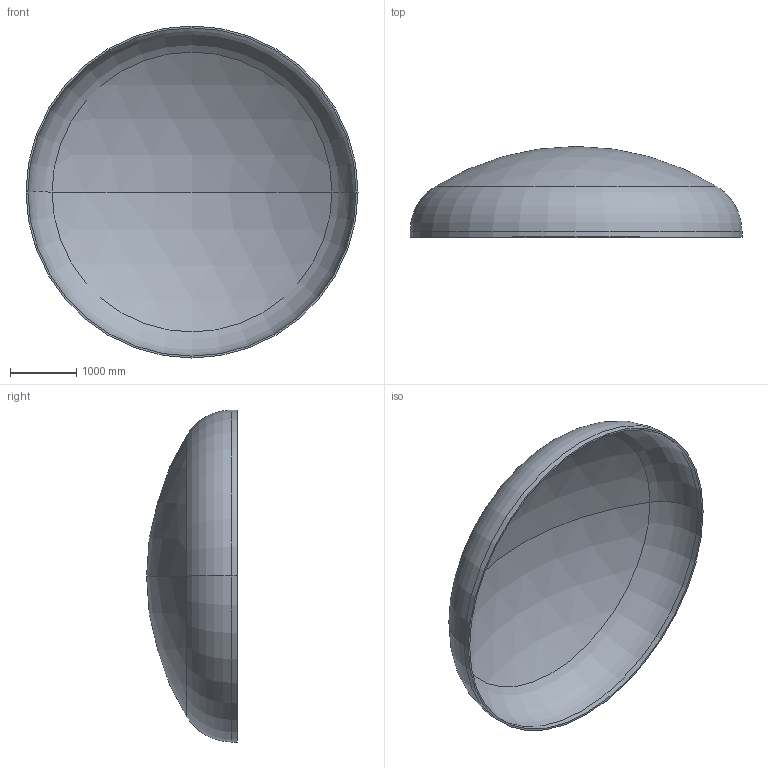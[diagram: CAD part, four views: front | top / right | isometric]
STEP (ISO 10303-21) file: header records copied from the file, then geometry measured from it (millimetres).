
FILE_DESCRIPTION (( 'STEP AP203' ), '1' );
FILE_NAME ('DIN 28013 Korbbogenform_-_Boden DIN 28013 - 5000 x 85 - I - s=28.step', '2016-07-02T00:17:59', ( '' ), ( '' ), 'SwSTEP 2.0', 'SolidWorks 2013', '' );
FILE_SCHEMA (( 'CONFIG_CONTROL_DESIGN' ));
Length unit declared in the file: millimetre
Products named in the file (1): DIN 28013 Korbbogenform_-_Boden DIN 28013 - 5000 x 85 - I - s=28
Bounding box: 5000 x 1367.8 x 5000 mm (x, y, z)
Volume: 793015279.6 mm3; surface area: 57082928.3 mm2
Topology: 1 solids, 1 shells, 13 faces, 24 edges, 14 vertices
Faces by surface type: torus 4, cylinder 4, sphere 4, plane 1
Entity records: 407 total; most frequent: DIRECTION 72, CARTESIAN_POINT 52, ORIENTED_EDGE 48, AXIS2_PLACEMENT_3D 34, EDGE_CURVE 24, CIRCLE 20, VERTEX_POINT 14, EDGE_LOOP 14
